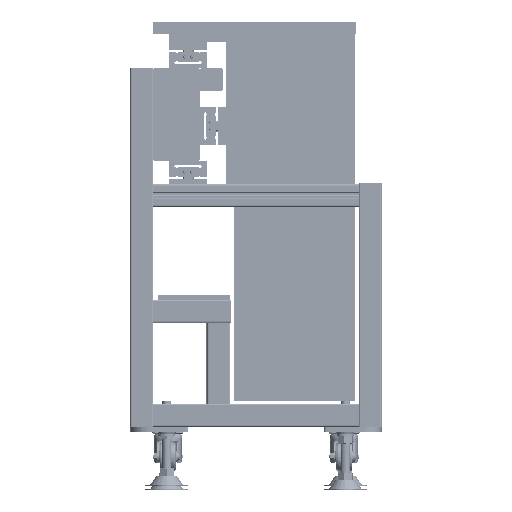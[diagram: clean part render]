
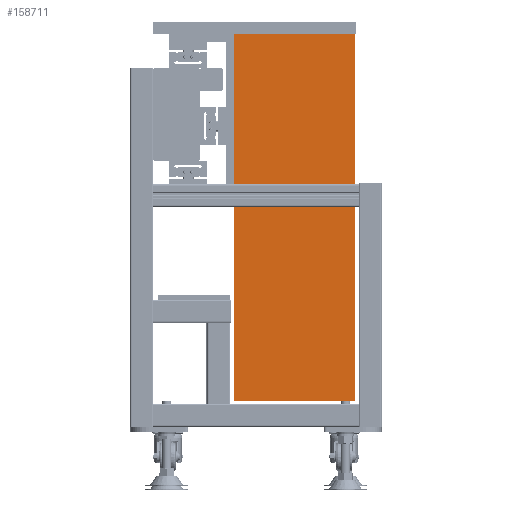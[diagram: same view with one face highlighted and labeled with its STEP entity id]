
A CAD part, front view. The second image highlights one B-rep face of the part: STEP entity #158711.
In plain terms, the highlighted planar face has unit normal (0, -1, 0).
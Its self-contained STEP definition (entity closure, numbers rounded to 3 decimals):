
#158648=CARTESIAN_POINT('',(497.537,-85.131,208.0));
#158649=VERTEX_POINT('',#158648);
#158656=CARTESIAN_POINT('',(497.537,-85.131,0.0));
#158657=VERTEX_POINT('',#158656);
#158658=CARTESIAN_POINT('',(497.537,-85.131,0.0));
#158659=DIRECTION('',(0.0,0.0,1.0));
#158660=VECTOR('',#158659,208.0);
#158661=LINE('',#158658,#158660);
#158662=EDGE_CURVE('',#158657,#158649,#158661,.T.);
#158681=CARTESIAN_POINT('',(497.537,-85.131,0.0));
#158682=DIRECTION('',(0.0,-1.0,0.0));
#158683=DIRECTION('',(0.0,0.0,-1.0));
#158684=AXIS2_PLACEMENT_3D('',#158681,#158682,#158683);
#158685=PLANE('',#158684);
#158686=CARTESIAN_POINT('',(-137.463,-85.131,208.0));
#158687=VERTEX_POINT('',#158686);
#158688=CARTESIAN_POINT('',(497.537,-85.131,208.0));
#158689=DIRECTION('',(-1.0,0.0,0.0));
#158690=VECTOR('',#158689,635.0);
#158691=LINE('',#158688,#158690);
#158692=EDGE_CURVE('',#158649,#158687,#158691,.T.);
#158693=ORIENTED_EDGE('',*,*,#158692,.T.);
#158694=CARTESIAN_POINT('',(-137.463,-85.131,0.0));
#158695=VERTEX_POINT('',#158694);
#158696=CARTESIAN_POINT('',(-137.463,-85.131,0.0));
#158697=DIRECTION('',(0.0,0.0,1.0));
#158698=VECTOR('',#158697,208.0);
#158699=LINE('',#158696,#158698);
#158700=EDGE_CURVE('',#158695,#158687,#158699,.T.);
#158701=ORIENTED_EDGE('',*,*,#158700,.F.);
#158702=CARTESIAN_POINT('',(497.537,-85.131,0.0));
#158703=DIRECTION('',(-1.0,0.0,0.0));
#158704=VECTOR('',#158703,635.0);
#158705=LINE('',#158702,#158704);
#158706=EDGE_CURVE('',#158657,#158695,#158705,.T.);
#158707=ORIENTED_EDGE('',*,*,#158706,.F.);
#158708=ORIENTED_EDGE('',*,*,#158662,.T.);
#158709=EDGE_LOOP('',(#158693,#158701,#158707,#158708));
#158710=FACE_OUTER_BOUND('',#158709,.T.);
#158711=ADVANCED_FACE('',(#158710),#158685,.T.);
